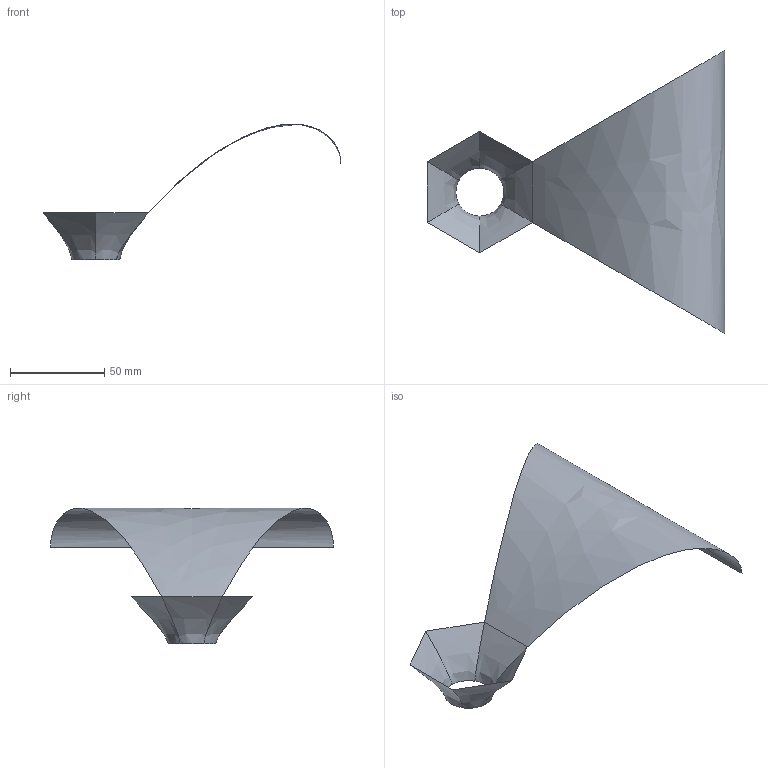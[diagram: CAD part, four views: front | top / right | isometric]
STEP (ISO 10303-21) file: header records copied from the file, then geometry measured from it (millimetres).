
FILE_DESCRIPTION(/* description */ (''),/* implementation_level */ '2;1');
FILE_NAME(/* name */ 'ATHEX-260-25 v2.step',/* time_stamp */ '2023-07-07T08:42:42+02:00',/* author */ (''),/* organization */ (''),/* preprocessor_version */ 'ST-DEVELOPER v19.2',/* originating_system */ 'Autodesk Translation Framework v12.6.0.85',/* authorisation */ '');
FILE_SCHEMA (('AUTOMOTIVE_DESIGN { 1 0 10303 214 3 1 1 }'));
Length unit declared in the file: millimetre
Products named in the file (1): ATHEX-260-25
Bounding box: 157.91 x 150.11 x 72.1 mm (x, y, z)
Surface area: 15759.9 mm2 (no closed solid volume)
Topology: 0 solids, 2 shells, 7 faces, 22 edges, 16 vertices
Faces by surface type: bspline 7
Entity records: 1056 total; most frequent: CARTESIAN_POINT 865, ORIENTED_EDGE 28, EDGE_CURVE 22, DIRECTION 22, VERTEX_POINT 16, LINE 8, VECTOR 8, B_SPLINE_CURVE_WITH_KNOTS 8
